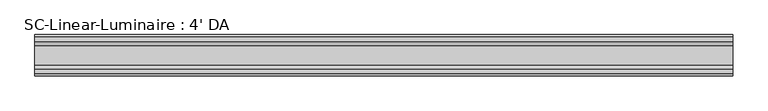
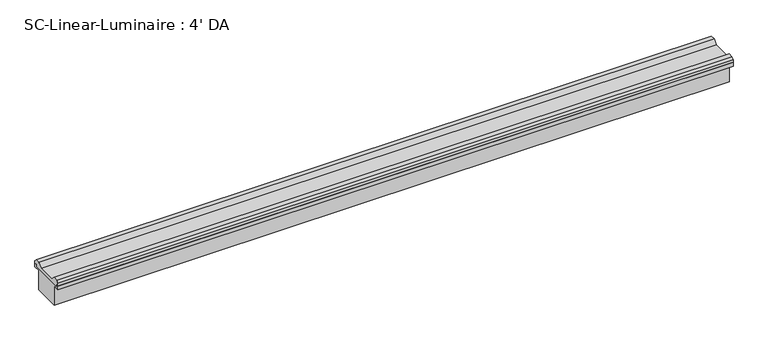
"""IFC4 building model written with IfcOpenShell, lengths in millimetres: light fixture geometry, SC-Linear-Luminaire : 4' DA."""

import ifcopenshell
import ifcopenshell.guid

model = None  # the IFC model being written
_history = None  # IfcOwnerHistory: only IFC2X3 demands one
_inside = {}  # id of a spatial element -> (the spatial element, [elements in it])
_under = {}  # id of a project, library or spatial element -> (it, [spatial elements below it])
_declared = {}  # id of a project -> (the project, [libraries it declares])
_typed = {}  # id of a type object -> (the type object, [elements of that type])
_made_of = {}  # id of a material, layer set ... -> (it, [elements and type objects made of it])


def new_model(schema):
    """Start an empty IFC model of exactly this schema.

    Asked for "IFC4X3", IfcOpenShell would pick the latest addendum, in which some entities
    have other attributes; the version numbers below select the first issue.
    IFC2X3 requires an IfcOwnerHistory on every rooted entity: one is made here for all.
    """
    global model, _history
    if schema == "IFC4X3":
        model = ifcopenshell.file(schema_version=(4, 3, 0, 0))
    else:
        model = ifcopenshell.file(schema=schema)
    _inside.clear()
    _under.clear()
    _declared.clear()
    _typed.clear()
    _made_of.clear()
    _history = None
    if model.schema == "IFC2X3":
        org = make("IfcOrganization", Name="unknown")
        user = make(
            "IfcPersonAndOrganization",
            ThePerson=make("IfcPerson", FamilyName="unknown"),
            TheOrganization=org,
        )
        app = make(
            "IfcApplication",
            ApplicationDeveloper=org,
            Version="unknown",
            ApplicationFullName="unknown",
            ApplicationIdentifier="unknown",
        )
        _history = make(
            "IfcOwnerHistory",
            OwningUser=user,
            OwningApplication=app,
            ChangeAction="ADDED",
            CreationDate=0,
        )
    return model


def make(cls, **values):
    """One entity of the class cls with the attributes given. An attribute that is None is left unset."""
    return model.create_entity(
        cls, **{name: value for name, value in values.items() if value is not None}
    )


def rooted(cls, **values):
    """An entity with a GlobalId (a new one), such as an element, a storey or a relation."""
    return make(cls, GlobalId=ifcopenshell.guid.new(), OwnerHistory=_history, **values)


def si_unit(unit_type, name, prefix=None):
    """IfcSIUnit, for example si_unit("LENGTHUNIT", "METRE", prefix="MILLI")."""
    return make("IfcSIUnit", UnitType=unit_type, Prefix=prefix, Name=name)


def assignment(units):
    """IfcUnitAssignment: the units of a project."""
    return None if units is None else make("IfcUnitAssignment", Units=units)


def point(xyz):
    """IfcCartesianPoint."""
    return None if xyz is None else make("IfcCartesianPoint", Coordinates=xyz)


def direction(xyz):
    """IfcDirection."""
    return None if xyz is None else make("IfcDirection", DirectionRatios=xyz)


def frame(location, z_axis=None, x_axis=None):
    """IfcAxis2Placement3D, a coordinate frame: its origin and axes. An axis left out is left unset."""
    return make(
        "IfcAxis2Placement3D",
        Location=point(location),
        Axis=direction(z_axis),
        RefDirection=direction(x_axis),
    )


def origin():
    """The frame at (0, 0, 0) with its axes left unset."""
    return frame((0.0, 0.0, 0.0))


def place(relative_to, where):
    """IfcLocalPlacement: puts the frame where relative to a parent placement (None: the world)."""
    return make(
        "IfcLocalPlacement", PlacementRelTo=relative_to, RelativePlacement=where
    )


def context(
    kind, dimensions, precision=None, world=None, true_north=None, identifier=None
):
    """IfcGeometricRepresentationContext, for example the 3D "Model" context."""
    return make(
        "IfcGeometricRepresentationContext",
        ContextIdentifier=identifier,
        ContextType=kind,
        CoordinateSpaceDimension=dimensions,
        Precision=precision,
        WorldCoordinateSystem=world,
        TrueNorth=true_north,
    )


def project(units=None, contexts=None):
    """IfcProject with its units and contexts."""
    return rooted(
        "IfcProject",
        Name="project",
        RepresentationContexts=contexts,
        UnitsInContext=assignment(units),
    )


def spatial(cls, under=None, at=None, **own):
    """A site, building, storey or space (cls), placed at a placement, below another one or the project."""
    s = rooted(cls, ObjectPlacement=at, **own)
    if under is not None:
        _under.setdefault(under.id(), (under, []))[1].append(s)
    return s


def polyline(points):
    """IfcPolyline through the points."""
    return make("IfcPolyline", Points=[point(p) for p in points])


def outline(outer, holes=None, kind="AREA"):
    """IfcArbitraryClosedProfileDef: a profile drawn as a closed curve; with holes, ...WithVoids."""
    if holes is None:
        return make("IfcArbitraryClosedProfileDef", ProfileType=kind, OuterCurve=outer)
    return make(
        "IfcArbitraryProfileDefWithVoids",
        ProfileType=kind,
        OuterCurve=outer,
        InnerCurves=holes,
    )


def extrude(swept, where, along, depth):
    """IfcExtrudedAreaSolid: the profile swept, set in the frame where, extruded along a direction by depth."""
    return make(
        "IfcExtrudedAreaSolid",
        SweptArea=swept,
        Position=where,
        ExtrudedDirection=direction(along),
        Depth=depth,
    )


def shape(context_of_items, identifier, shape_type, items):
    """IfcShapeRepresentation: the items that make up one representation, for example the "Body"."""
    return make(
        "IfcShapeRepresentation",
        ContextOfItems=context_of_items,
        RepresentationIdentifier=identifier,
        RepresentationType=shape_type,
        Items=items,
    )


def source(mapping_origin, context_of_items, identifier, shape_type, items):
    """IfcRepresentationMap: a shape defined once, which mapped items show again and again."""
    return make(
        "IfcRepresentationMap",
        MappingOrigin=mapping_origin,
        MappedRepresentation=shape(context_of_items, identifier, shape_type, items),
    )


def transform(
    local_origin,
    x_axis=None,
    y_axis=None,
    z_axis=None,
    scale=None,
    scale2=None,
    scale3=None,
    uniform=True,
):
    """IfcCartesianTransformationOperator3D, or its non-uniform kind. x_axis, y_axis, z_axis: its Axis1, 2, 3."""
    if uniform:
        return make(
            "IfcCartesianTransformationOperator3D",
            Axis1=direction(x_axis),
            Axis2=direction(y_axis),
            LocalOrigin=point(local_origin),
            Scale=scale,
            Axis3=direction(z_axis),
        )
    return make(
        "IfcCartesianTransformationOperator3DnonUniform",
        Axis1=direction(x_axis),
        Axis2=direction(y_axis),
        LocalOrigin=point(local_origin),
        Scale=scale,
        Axis3=direction(z_axis),
        Scale2=scale2,
        Scale3=scale3,
    )


def mapped(mapping_source, mapping_target):
    """IfcMappedItem: shows the shape of a source again, moved by a transform."""
    return make(
        "IfcMappedItem", MappingSource=mapping_source, MappingTarget=mapping_target
    )


def made_of(thing, what):
    """Note that an element or type object is made of a material, layer set ...; save() writes the relation."""
    if what is not None:
        _made_of.setdefault(what.id(), (what, []))[1].append(thing)
    return thing


def element(
    cls,
    number,
    at=None,
    inside=None,
    cuts=None,
    type_object=None,
    material=None,
    context=None,
    identifier="Body",
    shape_type=None,
    held_by="IfcProductDefinitionShape",
    body=None,
    shapes=None,
    **own,
):
    """One element of the class cls, such as IfcWall. Its Tag is "e" and its number.

    at: its placement. inside: the storey or other place that contains it. cuts: it is an
    opening in that element (IfcRelVoidsElement). A single representation is given by context,
    identifier, shape_type and body (its items); several are given by shapes. held_by: the class
    of the entity that holds the representations. save() writes the other relations.
    """
    e = rooted(cls, Tag="e%d" % number, ObjectPlacement=at, **own)
    if body is not None:
        shapes = [shape(context, identifier, shape_type, body)]
    if shapes is not None:
        e.Representation = make(held_by, Representations=shapes)
    if inside is not None:
        _inside.setdefault(inside.id(), (inside, []))[1].append(e)
    if cuts is not None:
        rooted(
            "IfcRelVoidsElement", RelatingBuildingElement=cuts, RelatedOpeningElement=e
        )
    if type_object is not None:
        _typed.setdefault(type_object.id(), (type_object, []))[1].append(e)
    return made_of(e, material)


def aggregate(whole, parts):
    """IfcRelAggregates: a whole, such as a stair, and the parts it consists of."""
    return rooted("IfcRelAggregates", RelatingObject=whole, RelatedObjects=parts)


def save(model, path):
    """Write the relations noted so far, then the file.

    IfcRelAggregates (storeys below a building ...), IfcRelContainedInSpatialStructure (elements
    in a storey), IfcRelDefinesByType, IfcRelAssociatesMaterial and IfcRelDeclares: one each for
    every whole, place, type object, material and project.
    """
    for whole, parts in _under.values():
        aggregate(whole, parts)
    for where, things in _inside.values():
        rooted(
            "IfcRelContainedInSpatialStructure",
            RelatedElements=things,
            RelatingStructure=where,
        )
    for kind, things in _typed.values():
        rooted("IfcRelDefinesByType", RelatedObjects=things, RelatingType=kind)
    for what, things in _made_of.values():
        rooted("IfcRelAssociatesMaterial", RelatedObjects=things, RelatingMaterial=what)
    for by, libraries in _declared.values():
        rooted("IfcRelDeclares", RelatingContext=by, RelatedDefinitions=libraries)
    model.write(path)


def sc_linear_luminaire_4_da_37324525(model_context):
    return source(origin(), model_context, "Body", "SweptSolid", [
        extrude(outline(polyline([(33.02, 66.5757209), (33.02, 60.325), (22.225, 60.325), (22.225, 26.45), (-22.225, 26.45), (-22.225, 60.325), (-33.02, 60.325), (-33.02, 66.5757209), (-29.845, 66.5757209), (-29.845, 62.6426128), (29.845, 62.6426128), (29.845, 66.5757209), (33.02, 66.5757209)])), frame((-558.8, 0.0, 0.0), z_axis=(1.0, 0.0, 0.0), x_axis=(0.0, 1.0, 0.0)), (0.0, 0.0, 1.0), 1117.6),
        extrude(outline(polyline([(33.02, 66.5757209), (29.845, 66.5757209), (29.845, 62.6426128), (-29.845, 62.6426128), (-29.845, 66.5757209), (-33.02, 66.5757209), (-33.02, 71.1228225), (-29.3990509, 74.7437716), (-21.7203311, 74.7437716), (-15.3703311, 68.3937716), (15.3532116, 68.3937716), (21.7032116, 74.7437716), (29.3990509, 74.7437716), (33.02, 71.1228225), (33.02, 66.5757209)])), frame((-558.8, 0.0, 0.0), z_axis=(1.0, 0.0, 0.0), x_axis=(0.0, 1.0, 0.0)), (0.0, 0.0, 1.0), 1117.6),
    ])


if __name__ == "__main__":
    model = new_model("IFC4")
    model_context = context("Model", 3, world=origin())
    ifc_project = project(units=[si_unit("LENGTHUNIT", "METRE", prefix="MILLI")], contexts=[model_context])
    site = spatial("IfcSite", under=ifc_project)
    building = spatial("IfcBuilding", under=site)
    placement = place(None, origin())
    sc_linear_luminaire_4_da_shape = sc_linear_luminaire_4_da_37324525(model_context)
    element("IfcLightFixture", 1, ObjectType="SC-Linear-Luminaire : 4' DA", at=placement, inside=building, context=model_context, shape_type="MappedRepresentation", body=[
        mapped(sc_linear_luminaire_4_da_shape, transform((0.0, 0.0, 0.0), x_axis=(1.0, 0.0, 0.0), y_axis=(0.0, 1.0, 0.0), z_axis=(0.0, 0.0, 1.0))),
    ])
    save(model, "model.ifc")
